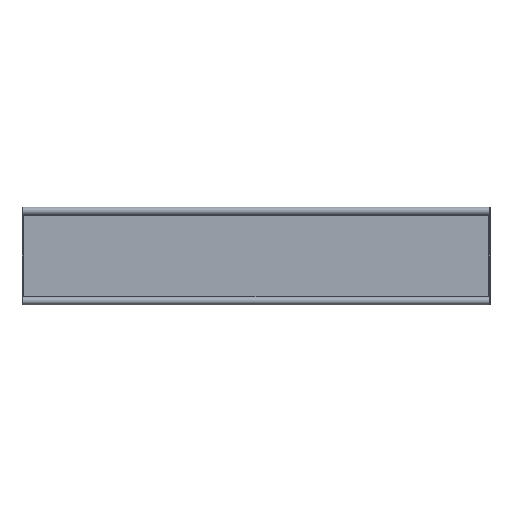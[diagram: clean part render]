
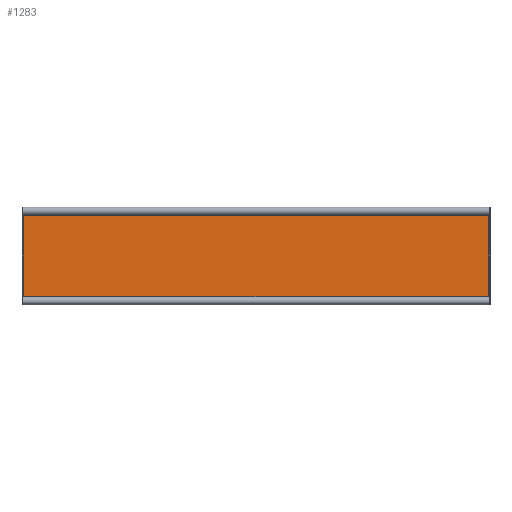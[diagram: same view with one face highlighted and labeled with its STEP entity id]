
A CAD part, front view. The second image highlights one B-rep face of the part: STEP entity #1283.
In plain terms, the highlighted planar face has unit normal (0, -1, 0).
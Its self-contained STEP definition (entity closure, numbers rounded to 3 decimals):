
#414 = DIRECTION ( 'NONE',  ( 0., 0., 1. ) ) ;
#512 = EDGE_LOOP ( 'NONE', ( #8149, #2362, #4893, #3385, #5591, #9188, #3270, #1766 ) ) ;
#681 = CARTESIAN_POINT ( 'NONE',  ( 596., -2., -124. ) ) ;
#749 = AXIS2_PLACEMENT_3D ( 'NONE', #7851, #6230, #2505 ) ;
#1083 = EDGE_CURVE ( 'NONE', #1985, #8346, #6293, .T. ) ;
#1156 = EDGE_CURVE ( 'NONE', #8346, #5701, #5103, .T. ) ;
#1248 = CIRCLE ( 'NONE', #3013, 5. ) ;
#1283 = ADVANCED_FACE ( 'NONE', ( #1782 ), #5057, .F. ) ;
#1371 = CARTESIAN_POINT ( 'NONE',  ( 599., -2., 124. ) ) ;
#1451 = LINE ( 'NONE', #681, #7015 ) ;
#1541 = CARTESIAN_POINT ( 'NONE',  ( 599., -2., -124. ) ) ;
#1550 = AXIS2_PLACEMENT_3D ( 'NONE', #4868, #5565, #414 ) ;
#1569 = EDGE_CURVE ( 'NONE', #5952, #2424, #9877, .T. ) ;
#1766 = ORIENTED_EDGE ( 'NONE', *, *, #2729, .T. ) ;
#1782 = FACE_OUTER_BOUND ( 'NONE', #512, .T. ) ;
#1832 = CARTESIAN_POINT ( 'NONE',  ( -599., -2., -124. ) ) ;
#1908 = CARTESIAN_POINT ( 'NONE',  ( -595., -2., -121. ) ) ;
#1960 = CARTESIAN_POINT ( 'NONE',  ( -596., -2., 120. ) ) ;
#1984 = CARTESIAN_POINT ( 'NONE',  ( -595., -2., 121. ) ) ;
#1985 = VERTEX_POINT ( 'NONE', #6444 ) ;
#2052 = EDGE_CURVE ( 'NONE', #5080, #2424, #1451, .T. ) ;
#2362 = ORIENTED_EDGE ( 'NONE', *, *, #2052, .T. ) ;
#2424 = VERTEX_POINT ( 'NONE', #3997 ) ;
#2437 = DIRECTION ( 'NONE',  ( 1., 0., 0. ) ) ;
#2505 = DIRECTION ( 'NONE',  ( 0., 0., 1. ) ) ;
#2540 = LINE ( 'NONE', #9308, #8616 ) ;
#2720 = DIRECTION ( 'NONE',  ( 0., 0., 1. ) ) ;
#2729 = EDGE_CURVE ( 'NONE', #8787, #2751, #5044, .T. ) ;
#2751 = VERTEX_POINT ( 'NONE', #2760 ) ;
#2760 = CARTESIAN_POINT ( 'NONE',  ( 595., -2., -121. ) ) ;
#3013 = AXIS2_PLACEMENT_3D ( 'NONE', #1541, #4651, #7049 ) ;
#3057 = EDGE_CURVE ( 'NONE', #5080, #2751, #1248, .T. ) ;
#3270 = ORIENTED_EDGE ( 'NONE', *, *, #6994, .F. ) ;
#3385 = ORIENTED_EDGE ( 'NONE', *, *, #6985, .F. ) ;
#3660 = DIRECTION ( 'NONE',  ( 0., 0., 1. ) ) ;
#3997 = CARTESIAN_POINT ( 'NONE',  ( 596., -2., 120. ) ) ;
#4444 = AXIS2_PLACEMENT_3D ( 'NONE', #1832, #7301, #2720 ) ;
#4651 = DIRECTION ( 'NONE',  ( 0., -1., 0. ) ) ;
#4868 = CARTESIAN_POINT ( 'NONE',  ( -599., -2., -124. ) ) ;
#4893 = ORIENTED_EDGE ( 'NONE', *, *, #1569, .F. ) ;
#5044 = LINE ( 'NONE', #5622, #5903 ) ;
#5057 = PLANE ( 'NONE',  #4444 ) ;
#5080 = VERTEX_POINT ( 'NONE', #8534 ) ;
#5103 = CIRCLE ( 'NONE', #749, 5. ) ;
#5565 = DIRECTION ( 'NONE',  ( 0., -1., 0. ) ) ;
#5591 = ORIENTED_EDGE ( 'NONE', *, *, #1156, .F. ) ;
#5622 = CARTESIAN_POINT ( 'NONE',  ( -599., -2., -121. ) ) ;
#5701 = VERTEX_POINT ( 'NONE', #1984 ) ;
#5903 = VECTOR ( 'NONE', #8663, 1000. ) ;
#5908 = CIRCLE ( 'NONE', #1550, 5. ) ;
#5952 = VERTEX_POINT ( 'NONE', #6922 ) ;
#6230 = DIRECTION ( 'NONE',  ( 0., -1., 0. ) ) ;
#6293 = LINE ( 'NONE', #9335, #7495 ) ;
#6355 = AXIS2_PLACEMENT_3D ( 'NONE', #1371, #6725, #3660 ) ;
#6444 = CARTESIAN_POINT ( 'NONE',  ( -596., -2., -120. ) ) ;
#6711 = DIRECTION ( 'NONE',  ( 0., 0., 1. ) ) ;
#6725 = DIRECTION ( 'NONE',  ( 0., -1., 0. ) ) ;
#6922 = CARTESIAN_POINT ( 'NONE',  ( 595., -2., 121. ) ) ;
#6985 = EDGE_CURVE ( 'NONE', #5701, #5952, #2540, .T. ) ;
#6994 = EDGE_CURVE ( 'NONE', #8787, #1985, #5908, .T. ) ;
#7015 = VECTOR ( 'NONE', #6711, 1000. ) ;
#7049 = DIRECTION ( 'NONE',  ( 0., 0., 1. ) ) ;
#7301 = DIRECTION ( 'NONE',  ( 0., 1., 0. ) ) ;
#7495 = VECTOR ( 'NONE', #7956, 1000. ) ;
#7851 = CARTESIAN_POINT ( 'NONE',  ( -599., -2., 124. ) ) ;
#7956 = DIRECTION ( 'NONE',  ( 0., 0., 1. ) ) ;
#8149 = ORIENTED_EDGE ( 'NONE', *, *, #3057, .F. ) ;
#8346 = VERTEX_POINT ( 'NONE', #1960 ) ;
#8534 = CARTESIAN_POINT ( 'NONE',  ( 596., -2., -120. ) ) ;
#8616 = VECTOR ( 'NONE', #2437, 1000. ) ;
#8663 = DIRECTION ( 'NONE',  ( 1., 0., 0. ) ) ;
#8787 = VERTEX_POINT ( 'NONE', #1908 ) ;
#9188 = ORIENTED_EDGE ( 'NONE', *, *, #1083, .F. ) ;
#9308 = CARTESIAN_POINT ( 'NONE',  ( -599., -2., 121. ) ) ;
#9335 = CARTESIAN_POINT ( 'NONE',  ( -596., -2., -124. ) ) ;
#9877 = CIRCLE ( 'NONE', #6355, 5. ) ;
